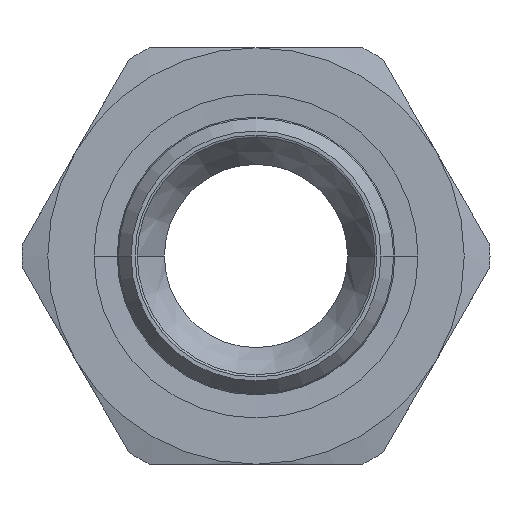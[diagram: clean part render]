
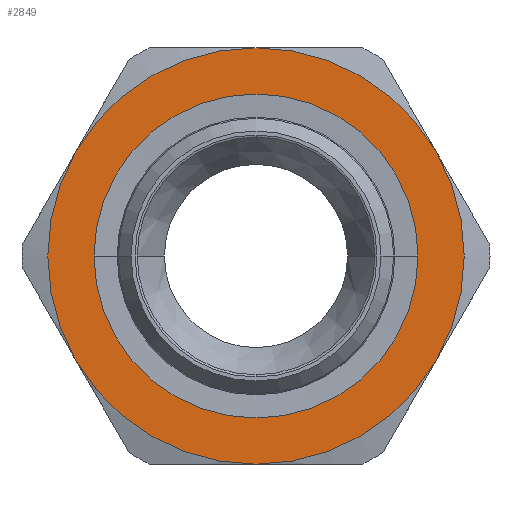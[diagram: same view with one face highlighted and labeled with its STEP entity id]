
A CAD part, left-side view. The second image highlights one B-rep face of the part: STEP entity #2849.
In plain terms, the highlighted planar face has unit normal (-1, 0, 0) as drawn and (0, 0, 1) by its records, which use the part's own axes.
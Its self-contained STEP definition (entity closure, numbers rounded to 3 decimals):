
#1176=CARTESIAN_POINT('',(0.,-19.45,6.));
#1177=VERTEX_POINT('',#1176);
#1193=CARTESIAN_POINT('',(0.,19.45,6.0));
#1194=VERTEX_POINT('',#1193);
#1201=CARTESIAN_POINT('',(0.,0.,6.0));
#1202=DIRECTION('',(0.0,0.0,-1.0));
#1203=DIRECTION('',(0.0,-1.0,0.0));
#1204=AXIS2_PLACEMENT_3D('',#1201,#1202,#1203);
#1205=CIRCLE('',#1204,19.45);
#1206=EDGE_CURVE('',#1177,#1194,#1205,.T.);
#1663=CARTESIAN_POINT('',(0.,0.,6.0));
#1664=DIRECTION('',(0.0,0.0,-1.0));
#1665=DIRECTION('',(0.0,-1.0,0.0));
#1666=AXIS2_PLACEMENT_3D('',#1663,#1664,#1665);
#1667=CIRCLE('',#1666,19.45);
#1668=EDGE_CURVE('',#1194,#1177,#1667,.T.);
#2222=CARTESIAN_POINT('',(12.5,-21.651,6.));
#2223=VERTEX_POINT('',#2222);
#2237=CARTESIAN_POINT('',(-12.5,-21.651,6.));
#2238=VERTEX_POINT('',#2237);
#2239=CARTESIAN_POINT('',(0.,0.0,6.0));
#2240=DIRECTION('',(0.0,0.0,1.0));
#2241=DIRECTION('',(1.0,0.0,0.0));
#2242=AXIS2_PLACEMENT_3D('',#2239,#2240,#2241);
#2243=CIRCLE('',#2242,25.);
#2244=EDGE_CURVE('',#2238,#2223,#2243,.T.);
#2322=CARTESIAN_POINT('',(-25.0,0.,6.));
#2323=VERTEX_POINT('',#2322);
#2324=CARTESIAN_POINT('',(0.,0.0,6.0));
#2325=DIRECTION('',(0.0,0.0,1.0));
#2326=DIRECTION('',(1.0,0.0,0.0));
#2327=AXIS2_PLACEMENT_3D('',#2324,#2325,#2326);
#2328=CIRCLE('',#2327,25.);
#2329=EDGE_CURVE('',#2323,#2238,#2328,.T.);
#2406=CARTESIAN_POINT('',(-12.5,21.651,6.));
#2407=VERTEX_POINT('',#2406);
#2408=CARTESIAN_POINT('',(0.,0.0,6.0));
#2409=DIRECTION('',(0.0,0.0,1.0));
#2410=DIRECTION('',(1.0,0.0,0.0));
#2411=AXIS2_PLACEMENT_3D('',#2408,#2409,#2410);
#2412=CIRCLE('',#2411,25.);
#2413=EDGE_CURVE('',#2407,#2323,#2412,.T.);
#2490=CARTESIAN_POINT('',(12.5,21.651,6.));
#2491=VERTEX_POINT('',#2490);
#2492=CARTESIAN_POINT('',(0.,0.0,6.0));
#2493=DIRECTION('',(0.0,0.0,1.0));
#2494=DIRECTION('',(1.0,0.0,0.0));
#2495=AXIS2_PLACEMENT_3D('',#2492,#2493,#2494);
#2496=CIRCLE('',#2495,25.);
#2497=EDGE_CURVE('',#2491,#2407,#2496,.T.);
#2575=CARTESIAN_POINT('',(25.0,0.0,6.));
#2576=VERTEX_POINT('',#2575);
#2577=CARTESIAN_POINT('',(0.,0.0,6.0));
#2578=DIRECTION('',(0.0,0.0,1.0));
#2579=DIRECTION('',(1.0,0.0,0.0));
#2580=AXIS2_PLACEMENT_3D('',#2577,#2578,#2579);
#2581=CIRCLE('',#2580,25.);
#2582=EDGE_CURVE('',#2576,#2491,#2581,.T.);
#2659=CARTESIAN_POINT('',(0.,0.0,6.0));
#2660=DIRECTION('',(0.0,0.0,1.0));
#2661=DIRECTION('',(1.0,0.0,0.0));
#2662=AXIS2_PLACEMENT_3D('',#2659,#2660,#2661);
#2663=CIRCLE('',#2662,25.);
#2664=EDGE_CURVE('',#2223,#2576,#2663,.T.);
#2832=CARTESIAN_POINT('',(0.,0.,6.0));
#2833=DIRECTION('',(0.0,0.0,1.0));
#2834=DIRECTION('',(1.0,0.0,0.0));
#2835=AXIS2_PLACEMENT_3D('',#2832,#2833,#2834);
#2836=PLANE('',#2835);
#2837=ORIENTED_EDGE('',*,*,#2664,.T.);
#2838=ORIENTED_EDGE('',*,*,#2582,.T.);
#2839=ORIENTED_EDGE('',*,*,#2497,.T.);
#2840=ORIENTED_EDGE('',*,*,#2413,.T.);
#2841=ORIENTED_EDGE('',*,*,#2329,.T.);
#2842=ORIENTED_EDGE('',*,*,#2244,.T.);
#2843=EDGE_LOOP('',(#2837,#2838,#2839,#2840,#2841,#2842));
#2844=FACE_OUTER_BOUND('',#2843,.T.);
#2845=ORIENTED_EDGE('',*,*,#1206,.T.);
#2846=ORIENTED_EDGE('',*,*,#1668,.T.);
#2847=EDGE_LOOP('',(#2845,#2846));
#2848=FACE_BOUND('',#2847,.T.);
#2849=ADVANCED_FACE('',(#2844,#2848),#2836,.T.);
